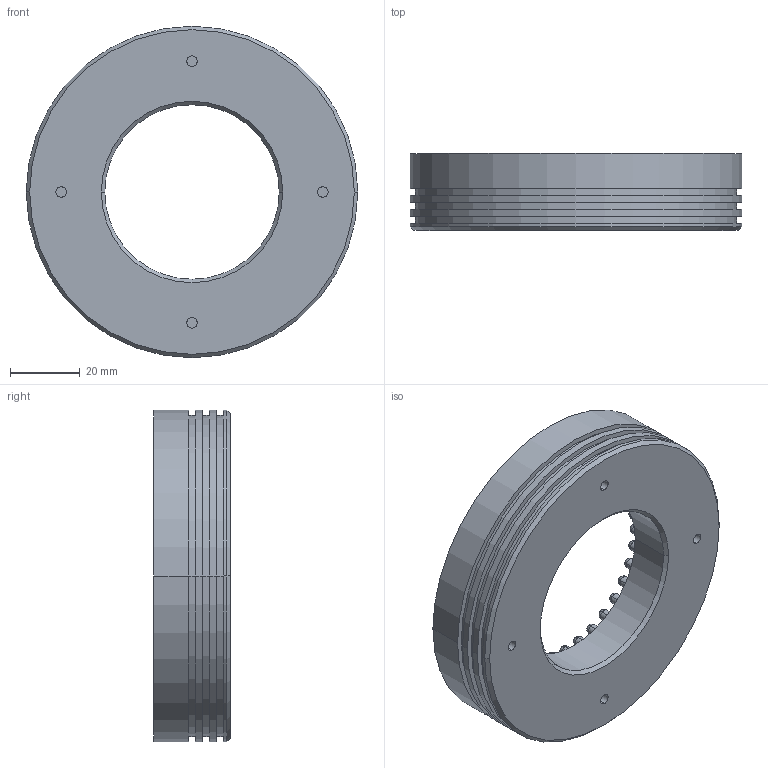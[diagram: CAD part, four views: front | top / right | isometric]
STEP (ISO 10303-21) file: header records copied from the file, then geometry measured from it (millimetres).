
FILE_DESCRIPTION((''),'2;1');
FILE_NAME('70-0W_ASM','2020-03-28T',('ASUS'),(''),'PRO/ENGINEER BY PARAMETRIC TECHNOLOGY CORPORATION, 2008380','PRO/ENGINEER BY PARAMETRIC TECHNOLOGY CORPORATION, 2008380','');
FILE_SCHEMA(('CONFIG_CONTROL_DESIGN'));
Length unit declared in the file: millimetre
Products named in the file (3): 70-0; 4_; 70-0W_ASM
Assembly tree (145 placements, depth 2):
  70-0W_ASM
    70-0
    4_  x144
Bounding box: 95 x 22 x 95 mm (x, y, z)
Volume: 64060 mm3; surface area: 41959.7 mm2
Topology: 145 solids, 146 shells, 1204 faces, 2408 edges, 1364 vertices
Faces by surface type: cylinder 608, plane 304, sphere 288, cone 4
Entity records: 2818 total; most frequent: DIRECTION 612, CARTESIAN_POINT 403, AXIS2_PLACEMENT_3D 286, ORIENTED_EDGE 236, PRODUCT_DEFINITION_SHAPE 148, ITEM_DEFINED_TRANSFORMATION 145, CONTEXT_DEPENDENT_SHAPE_REPRESENTATION 145, NEXT_ASSEMBLY_USAGE_OCCURRENCE 145
